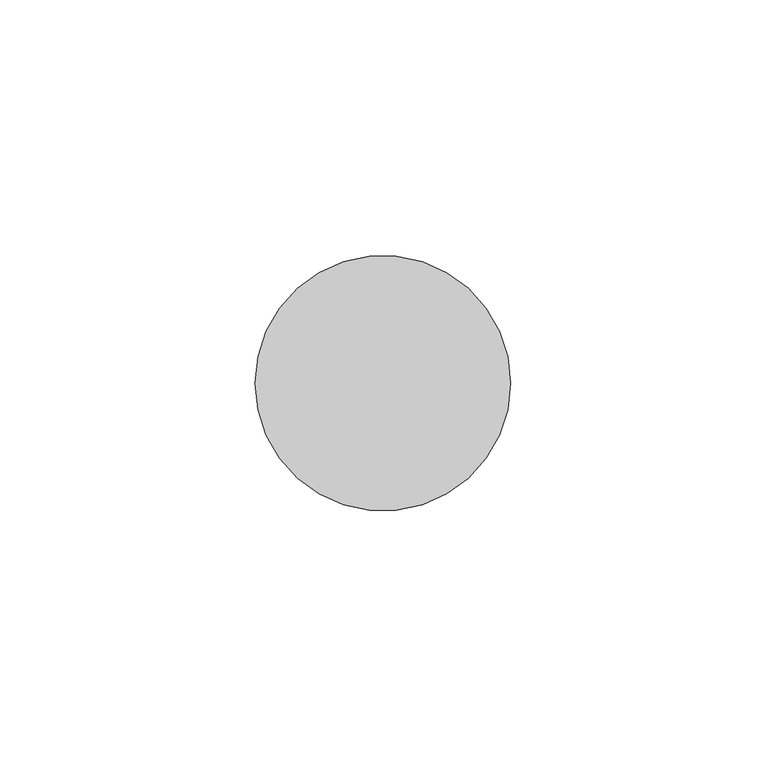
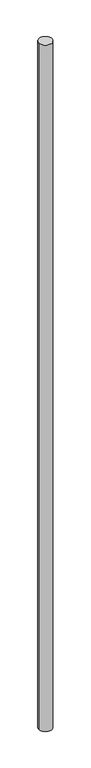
"""IFC4 building model written with IfcOpenShell, lengths in millimetres: member geometry, 圓形豎框 : 25mm 半徑."""

from ifc_helpers import new_model, si_unit, point, frame, origin, origin_2d, place, context, project, spatial, circle_curve, trimmed, segment, composite_curve, outline, extrude, source, transform, mapped, element, save


def member_6b4de103(model_context):
    return source(origin(), model_context, "Body", "SweptSolid", [
        extrude(outline(composite_curve([segment(trimmed(circle_curve(origin_2d(), 25.0), [point((25.0, 0.0))], [point((-25.0, 0.0))], False, "CARTESIAN"), True, "CONTINUOUS"), segment(trimmed(circle_curve(origin_2d(), 25.0), [point((-25.0, 0.0))], [point((25.0, 0.0))], False, "CARTESIAN"), True, "CONTINUOUS")], self_intersect=False)), frame((0.0, 0.0, -2734.643834), z_axis=(0.0, 0.0, 1.0), x_axis=(1.0, 0.0, 0.0)), (0.0, 0.0, 1.0), 2734.643834),
    ])


if __name__ == "__main__":
    model = new_model("IFC4")
    model_context = context("Model", 3, world=origin())
    ifc_project = project(units=[si_unit("LENGTHUNIT", "METRE", prefix="MILLI")], contexts=[model_context])
    site = spatial("IfcSite", under=ifc_project)
    building = spatial("IfcBuilding", under=site)
    placement = place(None, origin())
    member_shape = member_6b4de103(model_context)
    element("IfcMember", 1, ObjectType="圓形豎框 : 25mm 半徑", at=placement, inside=building, context=model_context, shape_type="MappedRepresentation", body=[
        mapped(member_shape, transform((0.0, 0.0, 0.0), x_axis=(1.0, 0.0, 0.0), y_axis=(0.0, 1.0, 0.0), z_axis=(0.0, 0.0, 1.0))),
    ])
    save(model, "model.ifc")
